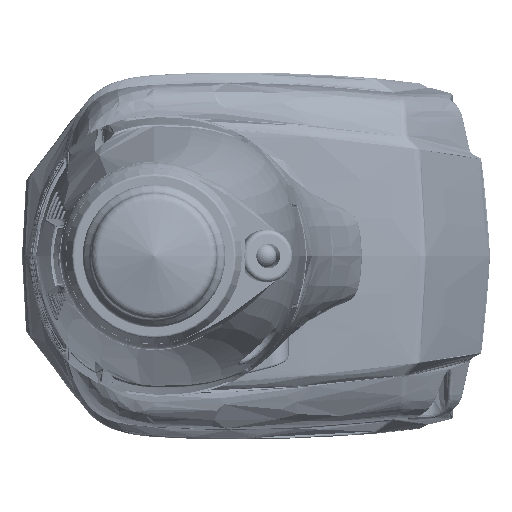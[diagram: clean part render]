
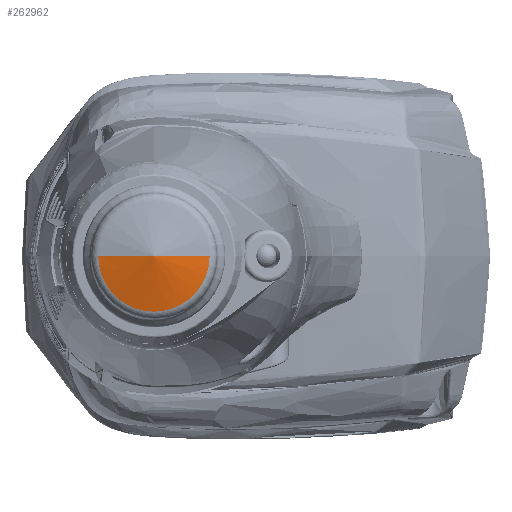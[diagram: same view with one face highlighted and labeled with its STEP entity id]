
A CAD part, left-side view. The second image highlights one B-rep face of the part: STEP entity #262962.
In plain terms, the highlighted conical face has half-angle 77.258 degrees and reference radius 5.854 mm.
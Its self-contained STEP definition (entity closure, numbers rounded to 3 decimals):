
#3045=CARTESIAN_POINT('',(-145.053,0.,0.));
#3046=DIRECTION('',(-1.,0.,0.));
#3047=DIRECTION('',(0.,1.,0.));
#3048=AXIS2_PLACEMENT_3D('',#3045,#3046,#3047);
#3053=DIRECTION('',(-0.221,-0.975,0.));
#3054=VECTOR('',#3053,12.003);
#3055=CARTESIAN_POINT('',(-145.053,11.708,0.));
#3056=LINE('',#3055,#3054);
#3060=DIRECTION('',(-0.221,0.975,0.));
#3061=VECTOR('',#3060,12.003);
#3062=CARTESIAN_POINT('',(-145.053,-11.708,0.));
#3063=LINE('',#3062,#3061);
#259158=CARTESIAN_POINT('',(-145.053,-11.708,0.));
#259159=CARTESIAN_POINT('',(-145.053,11.708,0.));
#259160=VERTEX_POINT('',#259158);
#259161=VERTEX_POINT('',#259159);
#259166=CARTESIAN_POINT('',(-147.7,0.,0.));
#259167=VERTEX_POINT('',#259166);
#262950=CARTESIAN_POINT('',(-146.376,0.,0.));
#262951=DIRECTION('',(1.,0.,0.));
#262952=DIRECTION('',(0.,1.,0.));
#262953=AXIS2_PLACEMENT_3D('',#262950,#262951,#262952);
#262954=CONICAL_SURFACE('',#262953,5.854,77.258);
#262955=ORIENTED_EDGE('',*,*,#262933,.F.);
#262957=ORIENTED_EDGE('',*,*,#262956,.T.);
#262959=ORIENTED_EDGE('',*,*,#262958,.F.);
#262960=EDGE_LOOP('',(#262955,#262957,#262959));
#262961=FACE_OUTER_BOUND('',#262960,.F.);
#262962=ADVANCED_FACE('',(#262961),#262954,.T.);
#3049=CIRCLE('',#3048,11.708);
#262933=EDGE_CURVE('',#259161,#259160,#3049,.T.);
#262956=EDGE_CURVE('',#259161,#259167,#3056,.T.);
#262958=EDGE_CURVE('',#259160,#259167,#3063,.T.);
